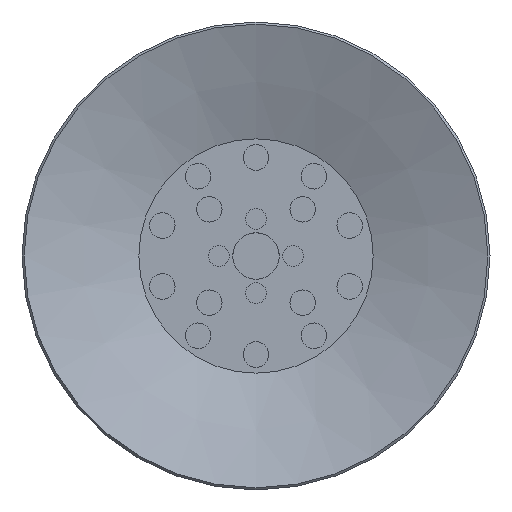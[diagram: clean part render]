
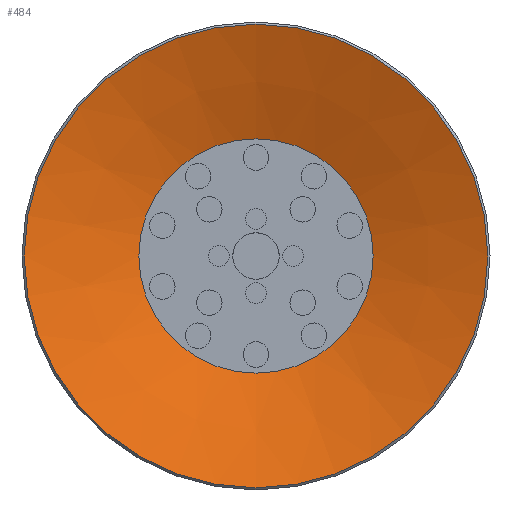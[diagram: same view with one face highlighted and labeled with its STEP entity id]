
A CAD part, front view. The second image highlights one B-rep face of the part: STEP entity #484.
In plain terms, the highlighted conical face has half-angle 70 degrees and reference radius 10 mm.
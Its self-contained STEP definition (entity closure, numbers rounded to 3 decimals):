
#484=ADVANCED_FACE('',(#752,#753),#754,.F.);
#752=FACE_BOUND('',#1129,.T.);
#753=FACE_OUTER_BOUND('',#1130,.T.);
#754=CONICAL_SURFACE('',#1131,10.0,1.222);
#1129=EDGE_LOOP('',(#1871));
#1130=EDGE_LOOP('',(#1872));
#1131=AXIS2_PLACEMENT_3D('',#1873,#1874,#1875);
#1871=ORIENTED_EDGE('',*,*,#2304,.T.);
#1872=ORIENTED_EDGE('',*,*,#2305,.F.);
#1873=CARTESIAN_POINT('',(0.0,0.,0.));
#1874=DIRECTION('',(0.0,0.,-1.0));
#1875=DIRECTION('',(0.0,1.0,0.));
#2304=EDGE_CURVE('',#2625,#2625,#2626,.T.);
#2305=EDGE_CURVE('',#2627,#2627,#2628,.T.);
#2625=VERTEX_POINT('',#3389);
#2626=CIRCLE('',#3390,5.055);
#2627=VERTEX_POINT('',#3391);
#2628=CIRCLE('',#3392,10.0);
#3389=CARTESIAN_POINT('',(0.0,-5.055,1.8));
#3390=AXIS2_PLACEMENT_3D('',#3731,#3732,#3733);
#3391=CARTESIAN_POINT('',(0.0,-10.0,0.));
#3392=AXIS2_PLACEMENT_3D('',#3734,#3735,#3736);
#3731=CARTESIAN_POINT('',(0.0,0.,1.8));
#3732=DIRECTION('',(0.0,0.,1.0));
#3733=DIRECTION('',(0.0,-1.0,0.));
#3734=CARTESIAN_POINT('',(0.0,0.,0.));
#3735=DIRECTION('',(0.0,0.,1.0));
#3736=DIRECTION('',(0.0,-1.0,0.));
